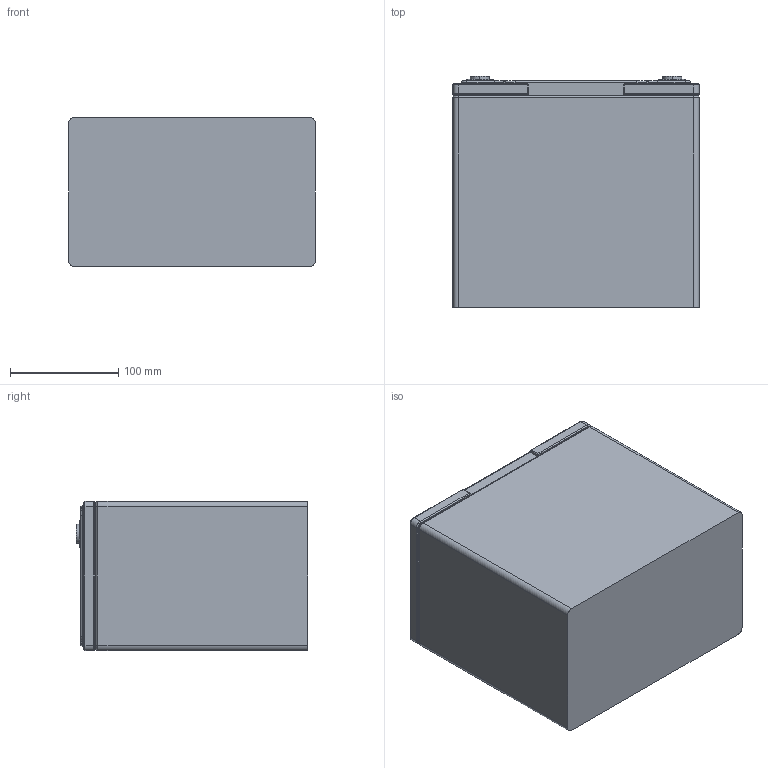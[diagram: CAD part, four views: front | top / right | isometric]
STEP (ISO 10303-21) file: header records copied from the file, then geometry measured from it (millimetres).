
FILE_DESCRIPTION (( 'STEP AP214' ), '1' );
FILE_NAME ('PB55.STEP', '2016-11-22T18:00:46', ( '' ), ( '' ), 'SwSTEP 2.0', 'SolidWorks 2016', '' );
FILE_SCHEMA (( 'AUTOMOTIVE_DESIGN' ));
Length unit declared in the file: millimetre
Products named in the file (1): PB55
Bounding box: 228 x 214 x 138 mm (x, y, z)
Volume: 6573593.2 mm3; surface area: 229919.8 mm2
Topology: 3 solids, 3 shells, 174 faces, 409 edges, 244 vertices
Faces by surface type: cylinder 83, plane 53, torus 34, sphere 4
Entity records: 5169 total; most frequent: DIRECTION 945, CARTESIAN_POINT 842, ORIENTED_EDGE 810, EDGE_CURVE 405, AXIS2_PLACEMENT_3D 371, VERTEX_POINT 244, VECTOR 203, LINE 203
